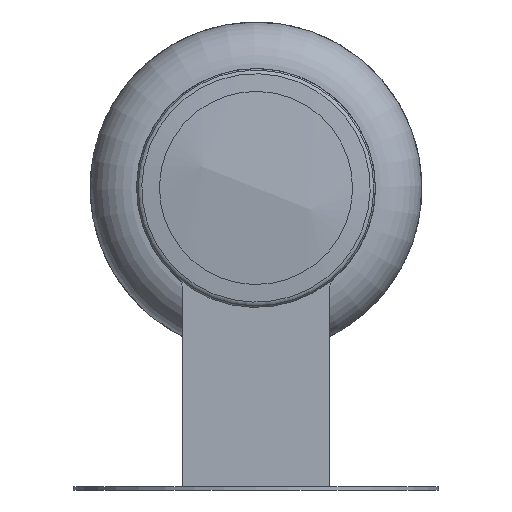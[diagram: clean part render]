
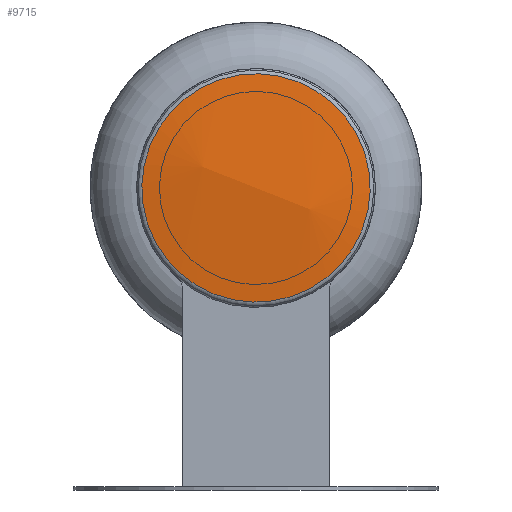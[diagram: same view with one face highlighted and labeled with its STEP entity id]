
A CAD part, front view. The second image highlights one B-rep face of the part: STEP entity #9715.
In plain terms, the highlighted spherical face has radius 168.893 mm.
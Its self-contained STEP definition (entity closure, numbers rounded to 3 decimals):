
#147=SPHERICAL_SURFACE('',#10796,168.893);
#927=FACE_OUTER_BOUND('',#1530,.T.);
#1530=EDGE_LOOP('',(#6936));
#3570=CIRCLE('',#10792,34.407);
#4317=VERTEX_POINT('',#15720);
#5308=EDGE_CURVE('',#4317,#4317,#3570,.T.);
#6936=ORIENTED_EDGE('',*,*,#5308,.F.);
#9715=ADVANCED_FACE('',(#927),#147,.T.);
#10792=AXIS2_PLACEMENT_3D('',#15722,#12416,#12417);
#10796=AXIS2_PLACEMENT_3D('',#15728,#12425,#12426);
#12416=DIRECTION('center_axis',(1.,0.,0.));
#12417=DIRECTION('ref_axis',(0.,0.,-1.));
#12425=DIRECTION('center_axis',(0.,0.,1.));
#12426=DIRECTION('ref_axis',(-1.,-0.001,0.));
#15720=CARTESIAN_POINT('',(3.542,0.,34.407));
#15722=CARTESIAN_POINT('Origin',(3.542,0.,
0.));
#15728=CARTESIAN_POINT('Origin',(168.893,0.,0.));
